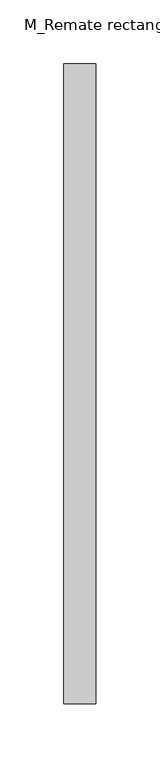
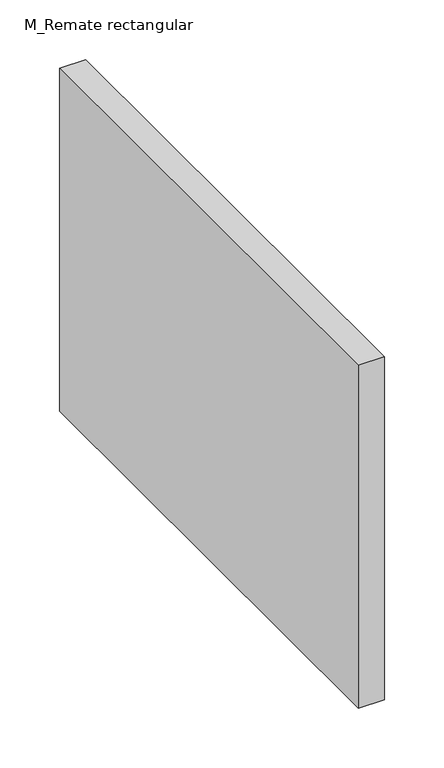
"""IFC4 building model written with IfcOpenShell, lengths in millimetres: duct fitting geometry, M_Remate rectangular : Estándar."""

from ifc_helpers import new_model, si_unit, frame, origin, place, context, project, spatial, polyline, outline, extrude, source, transform, mapped, element, save


def m_remate_rectangular_68fa65a1(model_context):
    return source(origin(), model_context, "Body", "SweptSolid", [
        extrude(outline(polyline([(0.0, -250.0), (0.0, 250.0), (25.0, 250.0), (25.0, -250.0), (0.0, -250.0)])), frame((0.0, 0.0, -175.0), z_axis=(0.0, 0.0, 1.0), x_axis=(1.0, 0.0, 0.0)), (0.0, 0.0, 1.0), 350.0),
    ])


if __name__ == "__main__":
    model = new_model("IFC4")
    model_context = context("Model", 3, world=origin())
    ifc_project = project(units=[si_unit("LENGTHUNIT", "METRE", prefix="MILLI")], contexts=[model_context])
    site = spatial("IfcSite", under=ifc_project)
    building = spatial("IfcBuilding", under=site)
    placement = place(None, origin())
    m_remate_rectangular_shape = m_remate_rectangular_68fa65a1(model_context)
    element("IfcDuctFitting", 1, ObjectType="M_Remate rectangular : Estándar", at=placement, inside=building, context=model_context, shape_type="MappedRepresentation", body=[
        mapped(m_remate_rectangular_shape, transform((0.0, 0.0, 0.0), x_axis=(1.0, 0.0, 0.0), y_axis=(0.0, 1.0, 0.0), z_axis=(0.0, 0.0, 1.0))),
    ])
    save(model, "model.ifc")
